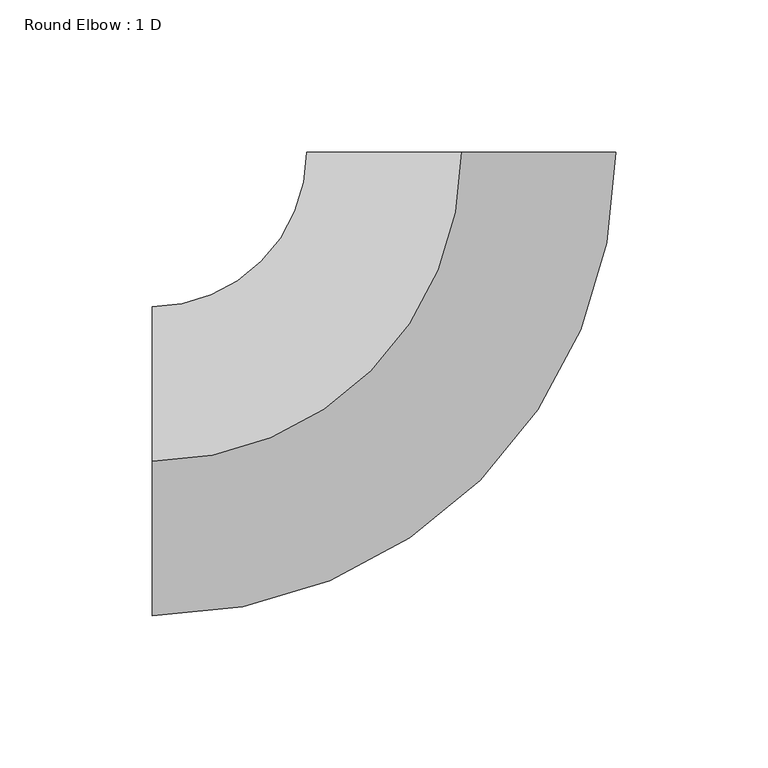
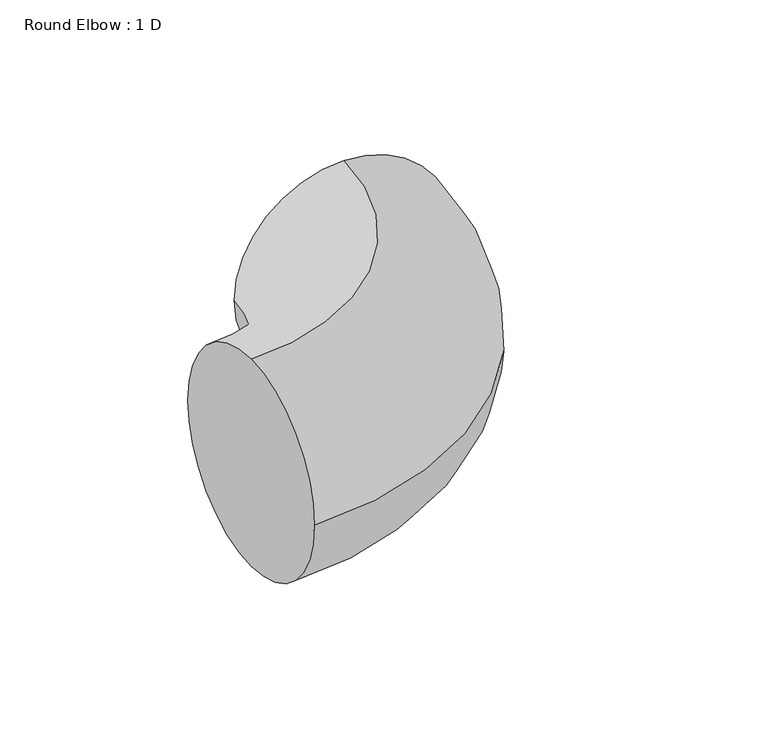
"""IFC4 building model written with IfcOpenShell, lengths in millimetres: duct fitting geometry, Round Elbow : 1 D."""

from ifc_helpers import new_model, si_unit, point, frame, origin, place, context, project, spatial, circle_curve, ellipse_curve, trimmed, source, transform, mapped, element, save
from ifc_brep_helpers import plane_surface, revolved_surface, advanced_brep


def round_elbow_1_d_2e2cf16c(model_context):
    return source(origin(), model_context, "Body", "AdvancedBrep", [
        advanced_brep(
        [(-101.6, 0.0, 50.8), (-101.6, 50.8, 0.0), (-101.6, 0.0, -50.8), (-101.6, -50.8, 0.0), (0.0, 101.6, 50.8), (50.8, 101.6, 0.0), (0.0, 101.6, -50.8), (-50.8, 101.6, 0.0)],
        [
            (0, 1, circle_curve(frame((-101.6, 0.0, 0.0), z_axis=(-1.0, 0.0, 0.0), x_axis=(0.0, 1.0, 0.0)), 50.8)),
            (1, 2, circle_curve(frame((-101.6, 0.0, 0.0), z_axis=(-1.0, 0.0, 0.0), x_axis=(0.0, 1.0, 0.0)), 50.8)),
            (2, 3, circle_curve(frame((-101.6, 0.0, 0.0), z_axis=(-1.0, 0.0, 0.0), x_axis=(0.0, 1.0, 0.0)), 50.8)),
            (3, 0, circle_curve(frame((-101.6, 0.0, 0.0), z_axis=(-1.0, 0.0, 0.0), x_axis=(0.0, 1.0, 0.0)), 50.8)),
            (4, 5, circle_curve(frame((0.0, 101.6, 0.0), z_axis=(0.0, 1.0, 0.0), x_axis=(-1.0, 0.0, 0.0)), 50.8)),
            (5, 6, circle_curve(frame((0.0, 101.6, 0.0), z_axis=(0.0, 1.0, 0.0), x_axis=(-1.0, 0.0, 0.0)), 50.8)),
            (6, 7, circle_curve(frame((0.0, 101.6, 0.0), z_axis=(0.0, 1.0, 0.0), x_axis=(-1.0, 0.0, 0.0)), 50.8)),
            (7, 4, circle_curve(frame((0.0, 101.6, 0.0), z_axis=(0.0, 1.0, 0.0), x_axis=(-1.0, 0.0, 0.0)), 50.8)),
            (7, 1, circle_curve(frame((-101.6, 101.6, 0.0), z_axis=(0.0, 0.0, -1.0), x_axis=(0.0, -1.0, 0.0)), 50.8)),
            (0, 4, circle_curve(frame((-101.6, 101.6, 50.8), z_axis=(0.0, 0.0, 1.0), x_axis=(0.0, -1.0, 0.0)), 101.6)),
            (6, 2, circle_curve(frame((-101.6, 101.6, -50.8), z_axis=(0.0, 0.0, -1.0), x_axis=(0.0, -1.0, 0.0)), 101.6)),
            (5, 3, circle_curve(frame((-101.6, 101.6, 0.0), z_axis=(0.0, 0.0, -1.0), x_axis=(0.0, -1.0, 0.0)), 152.4)),
        ],
        [
            plane_surface(frame((-101.6, 0.0, 0.0), z_axis=(-1.0, 0.0, 0.0), x_axis=(0.0, 0.0, 1.0))),
            plane_surface(frame((0.0, 101.6, 0.0), z_axis=(0.0, 1.0, 0.0), x_axis=(0.0, 0.0, 1.0))),
            revolved_surface(trimmed(ellipse_curve(frame((-101.6, 0.0, 0.0), z_axis=(-1.0, 0.0, 0.0), x_axis=(0.0, 1.0, 0.0)), 50.8, 50.8), [point((-101.6, 0.0, 50.8))], [point((-101.6, 50.8, 0.0))], True, "CARTESIAN"), (-101.6, 101.6, 0.0), (0.0, 0.0, 1.0)),
            revolved_surface(trimmed(ellipse_curve(frame((-101.6, 0.0, 0.0), z_axis=(-1.0, 0.0, 0.0), x_axis=(0.0, 1.0, 0.0)), 50.8, 50.8), [point((-101.6, 50.8, 0.0))], [point((-101.6, 0.0, -50.8))], True, "CARTESIAN"), (-101.6, 101.6, 0.0), (0.0, 0.0, 1.0)),
            revolved_surface(trimmed(ellipse_curve(frame((-101.6, 0.0, 0.0), z_axis=(-1.0, 0.0, 0.0), x_axis=(0.0, 1.0, 0.0)), 50.8, 50.8), [point((-101.6, 0.0, -50.8))], [point((-101.6, -50.8, 0.0))], True, "CARTESIAN"), (-101.6, 101.6, 0.0), (0.0, 0.0, 1.0)),
            revolved_surface(trimmed(ellipse_curve(frame((-101.6, 0.0, 0.0), z_axis=(-1.0, 0.0, 0.0), x_axis=(0.0, 1.0, 0.0)), 50.8, 50.8), [point((-101.6, -50.8, 0.0))], [point((-101.6, 0.0, 50.8))], True, "CARTESIAN"), (-101.6, 101.6, 0.0), (0.0, 0.0, 1.0)),
        ],
        [
            (0, [[1, 2, 3, 4]]),
            (1, [[5, 6, 7, 8]]),
            (2, [[9, -1, 10, -8]]),
            (3, [[11, -2, -9, -7]]),
            (4, [[12, -3, -11, -6]]),
            (5, [[-10, -4, -12, -5]]),
        ],
    ),
    ])


if __name__ == "__main__":
    model = new_model("IFC4")
    model_context = context("Model", 3, world=origin())
    ifc_project = project(units=[si_unit("LENGTHUNIT", "METRE", prefix="MILLI")], contexts=[model_context])
    site = spatial("IfcSite", under=ifc_project)
    building = spatial("IfcBuilding", under=site)
    placement = place(None, origin())
    round_elbow_1_d_shape = round_elbow_1_d_2e2cf16c(model_context)
    element("IfcDuctFitting", 1, ObjectType="Round Elbow : 1 D", at=placement, inside=building, context=model_context, shape_type="MappedRepresentation", body=[
        mapped(round_elbow_1_d_shape, transform((0.0, 0.0, 0.0), x_axis=(1.0, 0.0, 0.0), y_axis=(0.0, 1.0, 0.0), z_axis=(0.0, 0.0, 1.0))),
    ])
    save(model, "model.ifc")
